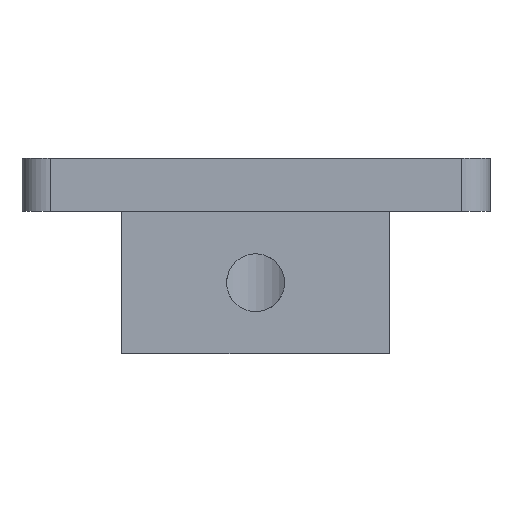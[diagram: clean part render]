
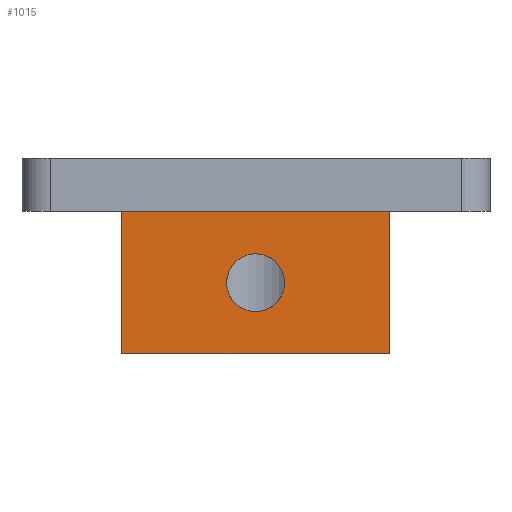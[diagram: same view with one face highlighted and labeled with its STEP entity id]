
A CAD part, front view. The second image highlights one B-rep face of the part: STEP entity #1015.
In plain terms, the highlighted planar face has unit normal (0, -1, 0).
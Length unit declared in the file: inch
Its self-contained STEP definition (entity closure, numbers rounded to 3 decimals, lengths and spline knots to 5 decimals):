
#28 = VECTOR ( 'NONE', #232, 39.37008 ) ;
#83 = CARTESIAN_POINT ( 'NONE',  ( 1.29, -3.175, 0. ) ) ;
#113 = PLANE ( 'NONE',  #695 ) ;
#205 = VERTEX_POINT ( 'NONE', #1114 ) ;
#216 = CARTESIAN_POINT ( 'NONE',  ( 0.35, -3.175, -0.5 ) ) ;
#232 = DIRECTION ( 'NONE',  ( 0., 0., 1. ) ) ;
#263 = CARTESIAN_POINT ( 'NONE',  ( 1.29, -3.175, -0.5 ) ) ;
#276 = DIRECTION ( 'NONE',  ( 0., 1., 0. ) ) ;
#291 = VERTEX_POINT ( 'NONE', #302 ) ;
#302 = CARTESIAN_POINT ( 'NONE',  ( 0.35, -3.175, -0.5 ) ) ;
#321 = LINE ( 'NONE', #471, #994 ) ;
#322 = DIRECTION ( 'NONE',  ( 0., 0., 1. ) ) ;
#405 = LINE ( 'NONE', #216, #28 ) ;
#471 = CARTESIAN_POINT ( 'NONE',  ( 1.29, -3.175, -0.5 ) ) ;
#483 = DIRECTION ( 'NONE',  ( -1., 0., 0. ) ) ;
#548 = DIRECTION ( 'NONE',  ( 0., -1., 0. ) ) ;
#559 = ORIENTED_EDGE ( 'NONE', *, *, #933, .T. ) ;
#575 = EDGE_LOOP ( 'NONE', ( #1340, #911 ) ) ;
#625 = EDGE_CURVE ( 'NONE', #291, #896, #405, .T. ) ;
#634 = DIRECTION ( 'NONE',  ( 0., 0., 1. ) ) ;
#670 = AXIS2_PLACEMENT_3D ( 'NONE', #830, #894, #899 ) ;
#695 = AXIS2_PLACEMENT_3D ( 'NONE', #263, #276, #322 ) ;
#713 = EDGE_CURVE ( 'NONE', #1616, #1658, #321, .T. ) ;
#830 = CARTESIAN_POINT ( 'NONE',  ( 0.82, -3.175, -0.25 ) ) ;
#847 = VECTOR ( 'NONE', #1279, 39.37008 ) ;
#858 = CARTESIAN_POINT ( 'NONE',  ( 0.82, -3.175, -0.14845 ) ) ;
#872 = ORIENTED_EDGE ( 'NONE', *, *, #713, .T. ) ;
#894 = DIRECTION ( 'NONE',  ( 0., -1., 0. ) ) ;
#896 = VERTEX_POINT ( 'NONE', #1176 ) ;
#899 = DIRECTION ( 'NONE',  ( 0., 0., -1. ) ) ;
#911 = ORIENTED_EDGE ( 'NONE', *, *, #1132, .F. ) ;
#912 = VERTEX_POINT ( 'NONE', #858 ) ;
#933 = EDGE_CURVE ( 'NONE', #1658, #896, #1191, .T. ) ;
#975 = AXIS2_PLACEMENT_3D ( 'NONE', #1026, #548, #1282 ) ;
#994 = VECTOR ( 'NONE', #634, 39.37008 ) ;
#1009 = FACE_BOUND ( 'NONE', #575, .T. ) ;
#1015 = ADVANCED_FACE ( 'NONE', ( #1009, #1388 ), #113, .F. ) ;
#1026 = CARTESIAN_POINT ( 'NONE',  ( 0.82, -3.175, -0.25 ) ) ;
#1057 = CIRCLE ( 'NONE', #975, 0.10155 ) ;
#1114 = CARTESIAN_POINT ( 'NONE',  ( 0.82, -3.175, -0.35155 ) ) ;
#1132 = EDGE_CURVE ( 'NONE', #912, #205, #1383, .T. ) ;
#1176 = CARTESIAN_POINT ( 'NONE',  ( 0.35, -3.175, 0. ) ) ;
#1191 = LINE ( 'NONE', #83, #1476 ) ;
#1216 = CARTESIAN_POINT ( 'NONE',  ( 1.29, -3.175, -0.5 ) ) ;
#1279 = DIRECTION ( 'NONE',  ( -1., 0., 0. ) ) ;
#1282 = DIRECTION ( 'NONE',  ( 0., 0., -1. ) ) ;
#1294 = ORIENTED_EDGE ( 'NONE', *, *, #1353, .F. ) ;
#1314 = LINE ( 'NONE', #1216, #847 ) ;
#1315 = CARTESIAN_POINT ( 'NONE',  ( 1.29, -3.175, -0.5 ) ) ;
#1340 = ORIENTED_EDGE ( 'NONE', *, *, #1503, .F. ) ;
#1353 = EDGE_CURVE ( 'NONE', #1616, #291, #1314, .T. ) ;
#1383 = CIRCLE ( 'NONE', #670, 0.10155 ) ;
#1388 = FACE_OUTER_BOUND ( 'NONE', #1706, .T. ) ;
#1476 = VECTOR ( 'NONE', #483, 39.37008 ) ;
#1503 = EDGE_CURVE ( 'NONE', #205, #912, #1057, .T. ) ;
#1616 = VERTEX_POINT ( 'NONE', #1315 ) ;
#1658 = VERTEX_POINT ( 'NONE', #1667 ) ;
#1663 = ORIENTED_EDGE ( 'NONE', *, *, #625, .F. ) ;
#1667 = CARTESIAN_POINT ( 'NONE',  ( 1.29, -3.175, 0. ) ) ;
#1706 = EDGE_LOOP ( 'NONE', ( #559, #1663, #1294, #872 ) ) ;
